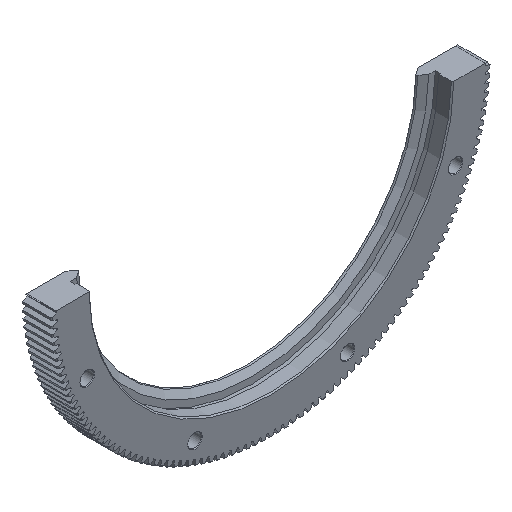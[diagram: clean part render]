
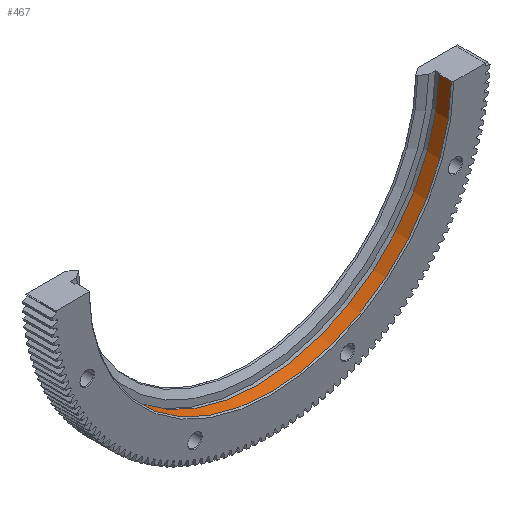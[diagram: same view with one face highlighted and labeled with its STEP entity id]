
A CAD part, isometric view. The second image highlights one B-rep face of the part: STEP entity #467.
In plain terms, the highlighted cylindrical face has radius 75 mm (diameter 150 mm), a partial arc.
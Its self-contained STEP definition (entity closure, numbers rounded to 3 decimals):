
#467 = ADVANCED_FACE( '', ( #1450 ), #1451, .F. );
#1450 = FACE_OUTER_BOUND( '', #2606, .T. );
#1451 = CYLINDRICAL_SURFACE( '', #2607, 75. );
#2606 = EDGE_LOOP( '', ( #6762, #6763, #6764, #6765 ) );
#2607 = AXIS2_PLACEMENT_3D( '', #6766, #6767, #6768 );
#6762 = ORIENTED_EDGE( '', *, *, #9557, .F. );
#6763 = ORIENTED_EDGE( '', *, *, #7997, .T. );
#6764 = ORIENTED_EDGE( '', *, *, #9558, .T. );
#6765 = ORIENTED_EDGE( '', *, *, #8940, .T. );
#6766 = CARTESIAN_POINT( '', ( 0., 0., 0. ) );
#6767 = DIRECTION( '', ( 0., 1., 0. ) );
#6768 = DIRECTION( '', ( 0., 0., -1. ) );
#7997 = EDGE_CURVE( '', #9676, #9674, #9677, .T. );
#8940 = EDGE_CURVE( '', #11549, #11547, #11550, .F. );
#9557 = EDGE_CURVE( '', #9676, #11547, #12337, .T. );
#9558 = EDGE_CURVE( '', #9674, #11549, #12338, .T. );
#9674 = VERTEX_POINT( '', #12472 );
#9676 = VERTEX_POINT( '', #12477 );
#9677 = LINE( '', #12478, #12479 );
#11547 = VERTEX_POINT( '', #15119 );
#11549 = VERTEX_POINT( '', #15122 );
#11550 = LINE( '', #15123, #15124 );
#12337 = CIRCLE( '', #16869, 75. );
#12338 = CIRCLE( '', #16870, 75. );
#12472 = CARTESIAN_POINT( '', ( -74.993, 0.5, -1. ) );
#12477 = CARTESIAN_POINT( '', ( -74.993, 5.75, -1. ) );
#12478 = CARTESIAN_POINT( '', ( -74.993, 0., -1. ) );
#12479 = VECTOR( '', #16971, 1000. );
#15119 = CARTESIAN_POINT( '', ( 74.993, 5.75, -1. ) );
#15122 = CARTESIAN_POINT( '', ( 74.993, 0.5, -1. ) );
#15123 = CARTESIAN_POINT( '', ( 74.993, 0., -1. ) );
#15124 = VECTOR( '', #18313, 1000. );
#16869 = AXIS2_PLACEMENT_3D( '', #18765, #18766, #18767 );
#16870 = AXIS2_PLACEMENT_3D( '', #18768, #18769, #18770 );
#16971 = DIRECTION( '', ( 0., -1., 0. ) );
#18313 = DIRECTION( '', ( 0., -1., 0. ) );
#18765 = CARTESIAN_POINT( '', ( 0., 5.75, 0. ) );
#18766 = DIRECTION( '', ( 0., -1., 0. ) );
#18767 = DIRECTION( '', ( 0., 0., -1. ) );
#18768 = CARTESIAN_POINT( '', ( 0., 0.5, 0. ) );
#18769 = DIRECTION( '', ( 0., -1., 0. ) );
#18770 = DIRECTION( '', ( 0., 0., -1. ) );
